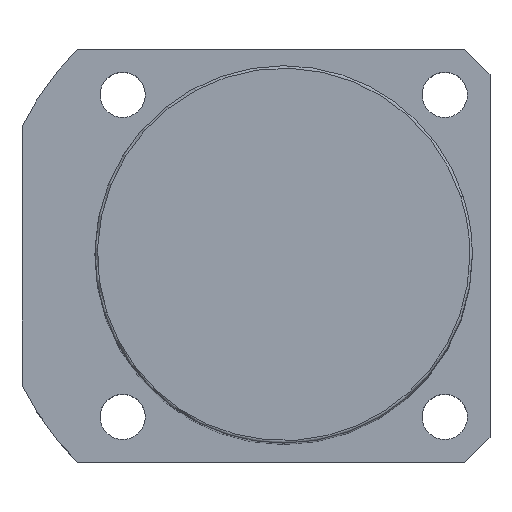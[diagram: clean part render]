
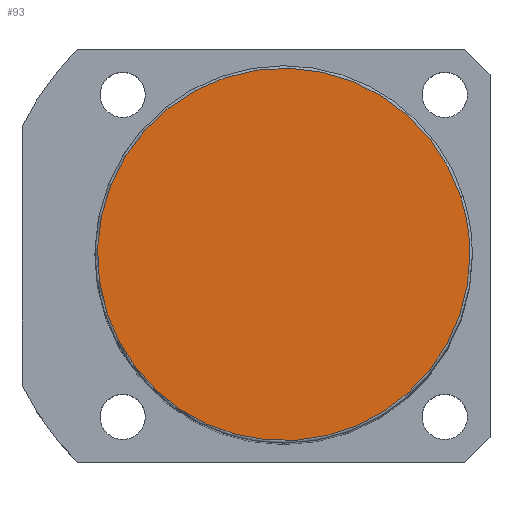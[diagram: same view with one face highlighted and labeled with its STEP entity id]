
A CAD part, top view. The second image highlights one B-rep face of the part: STEP entity #93.
In plain terms, the highlighted planar face has unit normal (0, 0, 1).
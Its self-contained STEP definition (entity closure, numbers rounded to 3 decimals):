
#16=CARTESIAN_POINT('',(35.189,11.434,178.0));
#17=VERTEX_POINT('',#16);
#45=CARTESIAN_POINT('',(-35.189,-11.434,178.0));
#46=VERTEX_POINT('',#45);
#54=CARTESIAN_POINT('',(0.0,0.0,178.0));
#55=DIRECTION('',(0.0,0.0,1.0));
#56=DIRECTION('',(1.0,0.0,0.0));
#57=AXIS2_PLACEMENT_3D('',#54,#55,#56);
#58=CIRCLE('',#57,37.0);
#59=EDGE_CURVE('no 890',#17,#46,#58,.T.);
#69=CARTESIAN_POINT('',(37.0,0.0,178.0));
#70=VERTEX_POINT('',#69);
#71=CARTESIAN_POINT('',(0.0,0.0,178.0));
#72=DIRECTION('',(0.0,0.0,1.0));
#73=DIRECTION('',(1.0,0.0,0.0));
#74=AXIS2_PLACEMENT_3D('',#71,#72,#73);
#75=CIRCLE('',#74,37.0);
#76=EDGE_CURVE('no 899',#70,#17,#75,.T.);
#77=ORIENTED_EDGE('',*,*,#76,.T.);
#78=ORIENTED_EDGE('',*,*,#59,.T.);
#79=CARTESIAN_POINT('',(0.0,0.0,178.0));
#80=DIRECTION('',(0.0,0.0,1.0));
#81=DIRECTION('',(1.0,0.0,0.0));
#82=AXIS2_PLACEMENT_3D('',#79,#80,#81);
#83=CIRCLE('',#82,37.0);
#84=EDGE_CURVE('no 905',#46,#70,#83,.T.);
#85=ORIENTED_EDGE('',*,*,#84,.T.);
#86=EDGE_LOOP('',(#77,#78,#85));
#87=FACE_OUTER_BOUND('',#86,.T.);
#88=CARTESIAN_POINT('',(0.0,0.0,178.0));
#89=DIRECTION('',(0.0,0.0,1.0));
#90=DIRECTION('',(1.0,0.0,0.0));
#91=AXIS2_PLACEMENT_3D('',#88,#89,#90);
#92=PLANE('',#91);
#93=ADVANCED_FACE('no 892',(#87),#92,.T.);
